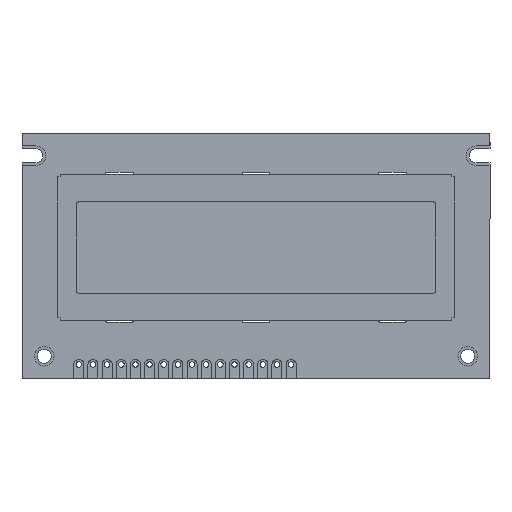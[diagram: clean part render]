
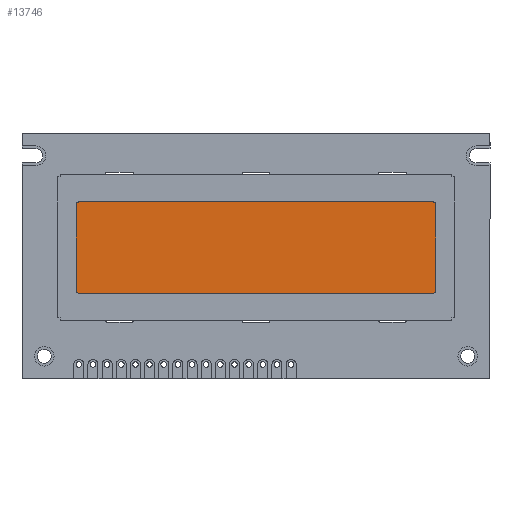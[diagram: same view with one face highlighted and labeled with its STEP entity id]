
A CAD part, top view. The second image highlights one B-rep face of the part: STEP entity #13746.
In plain terms, the highlighted planar face has unit normal (0, 0, 1).
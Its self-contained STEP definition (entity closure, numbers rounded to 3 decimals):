
#210 = CARTESIAN_POINT ( 'NONE',  ( -31.75, 9.7, 5.9 ) ) ;
#482 = ORIENTED_EDGE ( 'NONE', *, *, #13651, .T. ) ;
#522 = CARTESIAN_POINT ( 'NONE',  ( -32.25, 9.2, 5.9 ) ) ;
#1014 = CARTESIAN_POINT ( 'NONE',  ( 32.25, -6.2, 5.9 ) ) ;
#1029 = LINE ( 'NONE', #210, #4400 ) ;
#1144 = VERTEX_POINT ( 'NONE', #11625 ) ;
#1809 = VERTEX_POINT ( 'NONE', #5106 ) ;
#2218 = CARTESIAN_POINT ( 'NONE',  ( -32.25, 9.2, 5.9 ) ) ;
#2775 = CARTESIAN_POINT ( 'NONE',  ( -31.75, 9.2, 5.9 ) ) ;
#2866 = LINE ( 'NONE', #15312, #5844 ) ;
#2940 = ORIENTED_EDGE ( 'NONE', *, *, #6441, .T. ) ;
#3090 = CARTESIAN_POINT ( 'NONE',  ( 31.75, 9.2, 5.9 ) ) ;
#3490 = CARTESIAN_POINT ( 'NONE',  ( 31.75, 9.2, 5.9 ) ) ;
#4052 = DIRECTION ( 'NONE',  ( 1., 0., 0. ) ) ;
#4190 = CIRCLE ( 'NONE', #9768, 0.5 ) ;
#4368 = DIRECTION ( 'NONE',  ( -1., 0., 0. ) ) ;
#4400 = VECTOR ( 'NONE', #7807, 1000. ) ;
#4549 = EDGE_CURVE ( 'NONE', #9240, #13148, #11586, .T. ) ;
#4752 = DIRECTION ( 'NONE',  ( -1., 0., 0. ) ) ;
#5106 = CARTESIAN_POINT ( 'NONE',  ( 31.75, -6.7, 5.9 ) ) ;
#5129 = VECTOR ( 'NONE', #10299, 1000. ) ;
#5146 = CIRCLE ( 'NONE', #10128, 0.5 ) ;
#5172 = ORIENTED_EDGE ( 'NONE', *, *, #9141, .T. ) ;
#5350 = DIRECTION ( 'NONE',  ( 0., 0., 1. ) ) ;
#5522 = LINE ( 'NONE', #12874, #5129 ) ;
#5844 = VECTOR ( 'NONE', #7722, 1000. ) ;
#6282 = CARTESIAN_POINT ( 'NONE',  ( 31.75, -6.2, 5.9 ) ) ;
#6441 = EDGE_CURVE ( 'NONE', #13148, #10383, #13996, .T. ) ;
#6487 = ORIENTED_EDGE ( 'NONE', *, *, #16069, .T. ) ;
#7567 = DIRECTION ( 'NONE',  ( 1., 0., 0. ) ) ;
#7669 = FACE_OUTER_BOUND ( 'NONE', #9260, .T. ) ;
#7722 = DIRECTION ( 'NONE',  ( 0., 1., 0. ) ) ;
#7807 = DIRECTION ( 'NONE',  ( -1., 0., 0. ) ) ;
#7840 = EDGE_CURVE ( 'NONE', #14921, #1144, #4190, .T. ) ;
#7908 = ORIENTED_EDGE ( 'NONE', *, *, #10099, .T. ) ;
#8176 = CIRCLE ( 'NONE', #9151, 0.5 ) ;
#8239 = CARTESIAN_POINT ( 'NONE',  ( -31.75, -6.7, 5.9 ) ) ;
#8390 = ORIENTED_EDGE ( 'NONE', *, *, #15165, .T. ) ;
#8404 = CARTESIAN_POINT ( 'NONE',  ( -31.75, 9.7, 5.9 ) ) ;
#8601 = AXIS2_PLACEMENT_3D ( 'NONE', #3090, #11953, #4368 ) ;
#9141 = EDGE_CURVE ( 'NONE', #13017, #14921, #2866, .T. ) ;
#9151 = AXIS2_PLACEMENT_3D ( 'NONE', #2775, #11619, #4052 ) ;
#9221 = ORIENTED_EDGE ( 'NONE', *, *, #7840, .T. ) ;
#9240 = VERTEX_POINT ( 'NONE', #522 ) ;
#9260 = EDGE_LOOP ( 'NONE', ( #9221, #7908, #8390, #11405, #2940, #482, #6487, #5172 ) ) ;
#9768 = AXIS2_PLACEMENT_3D ( 'NONE', #3490, #12370, #4752 ) ;
#9815 = DIRECTION ( 'NONE',  ( 0., -1., 0. ) ) ;
#10099 = EDGE_CURVE ( 'NONE', #1144, #10470, #1029, .T. ) ;
#10128 = AXIS2_PLACEMENT_3D ( 'NONE', #6282, #15149, #7567 ) ;
#10299 = DIRECTION ( 'NONE',  ( 1., 0., 0. ) ) ;
#10383 = VERTEX_POINT ( 'NONE', #8239 ) ;
#10470 = VERTEX_POINT ( 'NONE', #8404 ) ;
#11405 = ORIENTED_EDGE ( 'NONE', *, *, #4549, .T. ) ;
#11586 = LINE ( 'NONE', #2218, #14968 ) ;
#11619 = DIRECTION ( 'NONE',  ( 0., 0., 1. ) ) ;
#11625 = CARTESIAN_POINT ( 'NONE',  ( 31.75, 9.7, 5.9 ) ) ;
#11953 = DIRECTION ( 'NONE',  ( 0., 0., -1. ) ) ;
#12370 = DIRECTION ( 'NONE',  ( 0., 0., 1. ) ) ;
#12874 = CARTESIAN_POINT ( 'NONE',  ( -31.75, -6.7, 5.9 ) ) ;
#12969 = CARTESIAN_POINT ( 'NONE',  ( -31.75, -6.2, 5.9 ) ) ;
#13017 = VERTEX_POINT ( 'NONE', #1014 ) ;
#13148 = VERTEX_POINT ( 'NONE', #13885 ) ;
#13651 = EDGE_CURVE ( 'NONE', #10383, #1809, #5522, .T. ) ;
#13655 = CARTESIAN_POINT ( 'NONE',  ( 32.25, 9.2, 5.9 ) ) ;
#13746 = ADVANCED_FACE ( 'NONE', ( #7669 ), #14467, .F. ) ;
#13885 = CARTESIAN_POINT ( 'NONE',  ( -32.25, -6.2, 5.9 ) ) ;
#13996 = CIRCLE ( 'NONE', #15466, 0.5 ) ;
#14245 = DIRECTION ( 'NONE',  ( 1., 0., 0. ) ) ;
#14467 = PLANE ( 'NONE',  #8601 ) ;
#14921 = VERTEX_POINT ( 'NONE', #13655 ) ;
#14968 = VECTOR ( 'NONE', #9815, 1000. ) ;
#15149 = DIRECTION ( 'NONE',  ( 0., 0., 1. ) ) ;
#15165 = EDGE_CURVE ( 'NONE', #10470, #9240, #8176, .T. ) ;
#15312 = CARTESIAN_POINT ( 'NONE',  ( 32.25, 9.2, 5.9 ) ) ;
#15466 = AXIS2_PLACEMENT_3D ( 'NONE', #12969, #5350, #14245 ) ;
#16069 = EDGE_CURVE ( 'NONE', #1809, #13017, #5146, .T. ) ;
